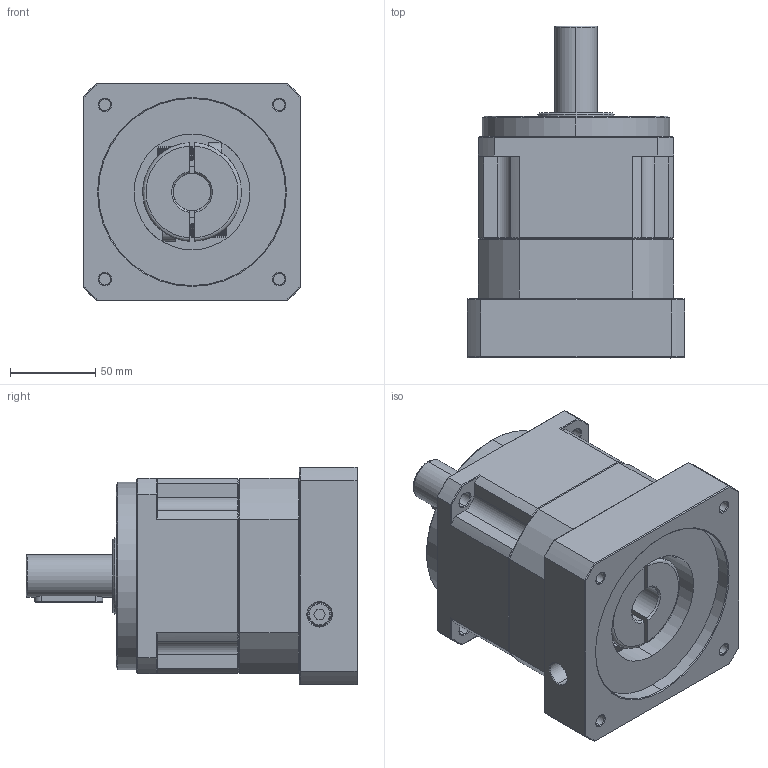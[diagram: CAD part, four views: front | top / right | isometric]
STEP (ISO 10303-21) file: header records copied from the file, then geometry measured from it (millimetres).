
FILE_DESCRIPTION (( 'STEP AP214' ), '1' );
FILE_NAME ('ZPB115-D25-L1-P1-22-110-145-M8.step', '2024-06-11T19:26:59', ( 'Windows 蚚誧' ), ( 'Organization' ), 'SwSTEP 2.0', 'SolidWorks 2016', '' );
FILE_SCHEMA (( 'AUTOMOTIVE_DESIGN' ));
Length unit declared in the file: millimetre
Products named in the file (1): ZPB115-D25-L1-P1-22-110-145-M8
Bounding box: 128 x 195 x 128 mm (x, y, z)
Surface area: 136165.7 mm2 (no closed solid volume)
Topology: 0 solids, 28 shells, 1802 faces, 4919 edges, 3176 vertices
Faces by surface type: plane 916, bspline 381, cone 266, cylinder 239
Full cylindrical faces by diameter (mm): 10.2 x4
Entity records: 97029 total; most frequent: CARTESIAN_POINT 48742, ORIENTED_EDGE 9640, DIRECTION 7356, EDGE_CURVE 4829, LINE 3140, VECTOR 3140, VERTEX_POINT 3112, AXIS2_PLACEMENT_3D 2108
